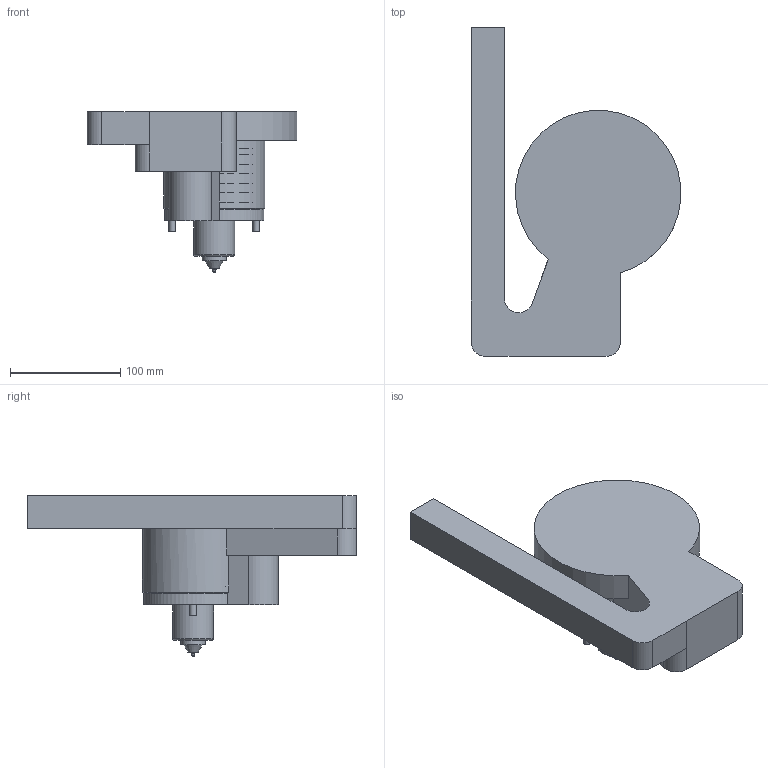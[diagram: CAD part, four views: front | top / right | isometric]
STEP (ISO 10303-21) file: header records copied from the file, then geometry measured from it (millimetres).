
FILE_DESCRIPTION( ( 'STEP AP214' ), '1' );
FILE_NAME( 'S:/PROIECTE_YUDO_2009/PROIECTE YUDO 3D/SAS/YUEU09-SAS22VV119_2/YUEU09-SAS22VV119_cutout.step', '2009-06-29T10:38:49', ( ' ' ), ( ' ' ), 'XStep 1.0', ' ', ' ' );
FILE_SCHEMA( ( 'automotive_design' ) );
Length unit declared in the file: millimetre
Products named in the file (5): 1; 2; 3; 4; 5
Bounding box: 189.74 x 298 x 145.3 mm (x, y, z)
Volume: 2257392.9 mm3; surface area: 184390.2 mm2
Topology: 5 solids, 5 shells, 112 faces, 240 edges, 152 vertices
Faces by surface type: cylinder 47, plane 42, cone 19, torus 4
Full cylindrical faces by diameter (mm): 3.4 x1, 4 x1, 6 x4, 13 x1, 17 x1, 21 x1, 22 x3, 22.1 x1, 34 x1, 37 x1, 65 x1, 89 x4, 90 x5
Entity records: 4106 total; most frequent: CARTESIAN_POINT 903, DIRECTION 476, ORIENTED_EDGE 374, AXIS2_PLACEMENT_3D 201, EDGE_CURVE 187, EDGE_LOOP 179, VERTEX_POINT 146, FACE_OUTER_BOUND 141
